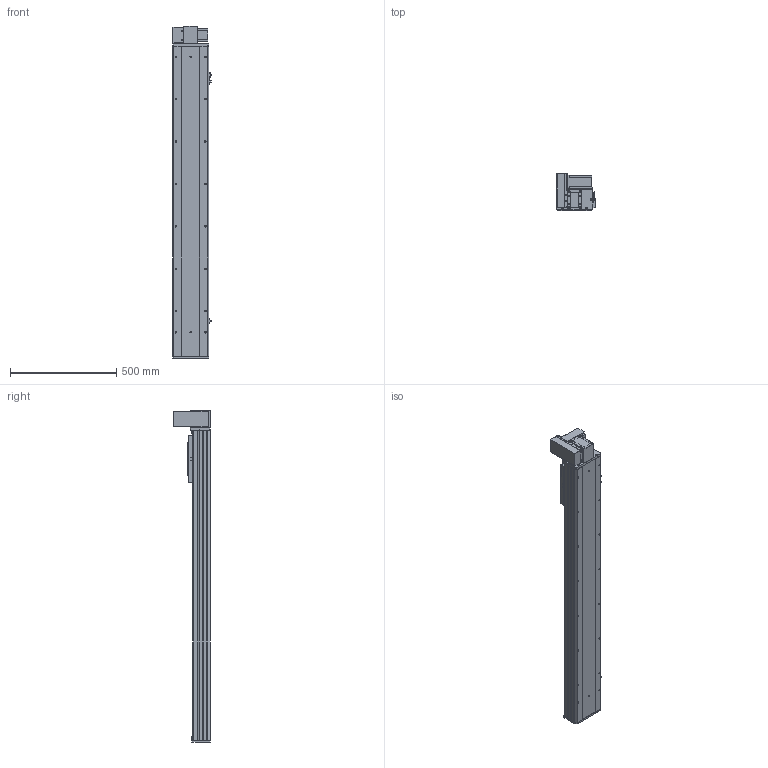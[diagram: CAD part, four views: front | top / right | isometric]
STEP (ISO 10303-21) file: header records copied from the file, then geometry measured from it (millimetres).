
FILE_DESCRIPTION (( 'STEP AP203' ), '1' );
FILE_NAME ('Y170CB-D105-S1150-UL-P400W.STEP', '2020-02-20T02:24:46', ( '微软用户' ), ( '微软中国' ), 'SwSTEP 2.0', 'SolidWorks 2017', '' );
FILE_SCHEMA (( 'CONFIG_CONTROL_DESIGN' ));
Length unit declared in the file: millimetre
Products named in the file (18): Y170CB-D105-S1150-UL-P400W; 0C--雄赽釱俋欶-170; 0B-萇儂楊擘啣; 70CB-詩湍--; san松下电机400不带刹车----; Y100-135俋离換覜ん--; 70CB-掛极-; Y170CB-陔俋离換覜結え---; --70CB --喘謫眊楊擘啣-; 70B喘謫眊----; 70CB-耜裔啣-; Y1埴倛裔; 70C--詩湍揤踡え-; 17B-耜蚾蟀諉啣----; 70CB--耜裔; 00B-俋欶BM--163; 70C-雄赽釱-奻-; B-源倛裔啣
Assembly tree (21 placements, depth 2):
  Y170CB-D105-S1150-UL-P400W
    B-源倛裔啣
    0B-萇儂楊擘啣
    san松下电机400不带刹车----
    70CB-掛极-
    --70CB --喘謫眊楊擘啣-
    70CB-耜裔啣-  x2
    70C--詩湍揤踡え-  x2
    70CB--耜裔
    70C-雄赽釱-奻-
    0C--雄赽釱俋欶-170
    70CB-詩湍--
    Y100-135俋离換覜ん--  x3
    Y170CB-陔俋离換覜結え---
    70B喘謫眊----
    Y1埴倛裔
    17B-耜蚾蟀諉啣----
    00B-俋欶BM--163
Bounding box: 183.5 x 174 x 1566 mm (x, y, z)
Volume: 7129841.6 mm3; surface area: 2558931.3 mm2
Topology: 21 solids, 21 shells, 1015 faces, 2717 edges, 1802 vertices
Faces by surface type: cylinder 529, plane 462, cone 24
Entity records: 32328 total; most frequent: CARTESIAN_POINT 5916, DIRECTION 5258, ORIENTED_EDGE 4916, EDGE_CURVE 2458, AXIS2_PLACEMENT_3D 1928, VERTEX_POINT 1632, LINE 1402, VECTOR 1402
